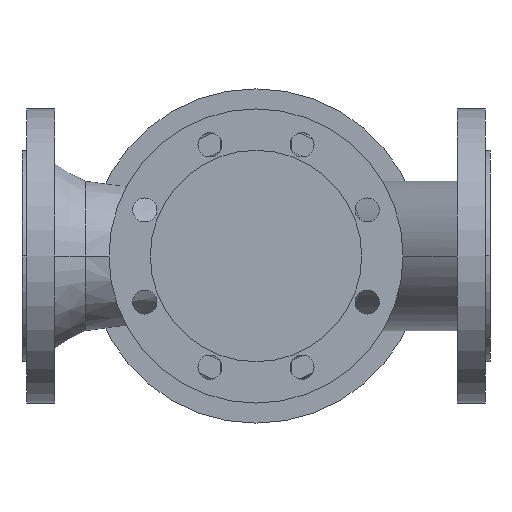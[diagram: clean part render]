
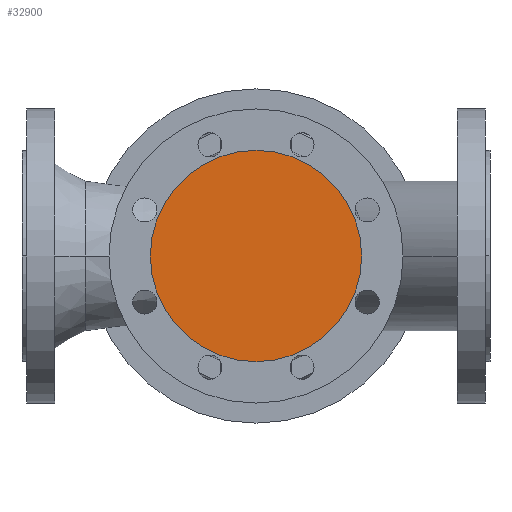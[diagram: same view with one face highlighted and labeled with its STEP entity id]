
A CAD part, front view. The second image highlights one B-rep face of the part: STEP entity #32900.
In plain terms, the highlighted planar face has unit normal (0, -1, 0).
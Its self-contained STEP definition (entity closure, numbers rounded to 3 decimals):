
#3210=CARTESIAN_POINT('',(96.,-150.,0.));
#3220=VERTEX_POINT('',#3210);
#3380=CARTESIAN_POINT('',(254.,-150.,0.));
#3390=VERTEX_POINT('',#3380);
#3420=CARTESIAN_POINT('',(175.,-150.,0.));
#3430=DIRECTION('',(0.,1.,0.));
#3440=DIRECTION('',(1.,0.,0.));
#3450=AXIS2_PLACEMENT_3D('',#3420,#3430,#3440);
#3460=CIRCLE('',#3450,79.);
#3470=EDGE_CURVE('',#3220,#3390,#3460,.T.);
#32800=CARTESIAN_POINT('',(214.5,-150.,0.));
#32810=DIRECTION('',(0.,-1.,0.));
#32820=DIRECTION('',(-1.,0.,0.));
#32830=AXIS2_PLACEMENT_3D('',#32800,#32810,#32820);
#32840=PLANE('',#32830);
#32850=EDGE_CURVE('',#3390,#3220,#3460,.T.);
#32860=ORIENTED_EDGE('',*,*,#32850,.F.);
#32870=ORIENTED_EDGE('',*,*,#3470,.F.);
#32880=EDGE_LOOP('',(#32870,#32860));
#32890=FACE_OUTER_BOUND('',#32880,.T.);
#32900=ADVANCED_FACE('',(#32890),#32840,.T.);
